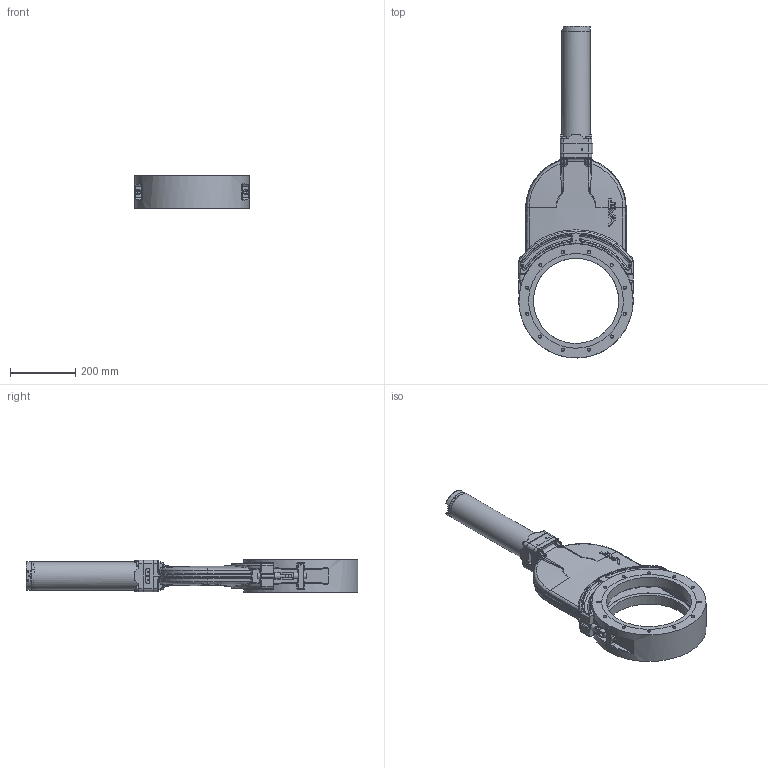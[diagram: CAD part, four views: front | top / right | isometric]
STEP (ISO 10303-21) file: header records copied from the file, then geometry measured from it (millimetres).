
FILE_DESCRIPTION((''),'2;1');
FILE_NAME('O:\MT\MT\Systeme\Cad\Datenexporte\www_vat_ch\215117.stp','2005-05-12T15:23:45',('User'),('SDRC'),'I-DEAS Master Series 9','UNIX','Yes');
FILE_SCHEMA(('CONFIG_CONTROL_DESIGN'));
Length unit declared in the file: millimetre
Products named in the file (2): 87090-R1; 92838-01_4
Assembly tree (39 placements, depth 2):
  87090-R1
    92838-01_4
    #3231
    #3392
    #3553
    #3714
    #4036
    #4197
Bounding box: 352 x 1017.35 x 100 mm (x, y, z)
Volume: 6421074.4 mm3; surface area: 1089446.8 mm2
Topology: 52 solids, 52 shells, 1834 faces, 4174 edges, 2483 vertices
Faces by surface type: bspline 1834
Entity records: 69005 total; most frequent: CARTESIAN_POINT 44130, ORIENTED_EDGE 7233, EDGE_CURVE 3617, VERTEX_POINT 2192, EDGE_LOOP 1808, B_SPLINE_CURVE_WITH_KNOTS 1715, FACE_OUTER_BOUND 1603, ADVANCED_FACE 1603
